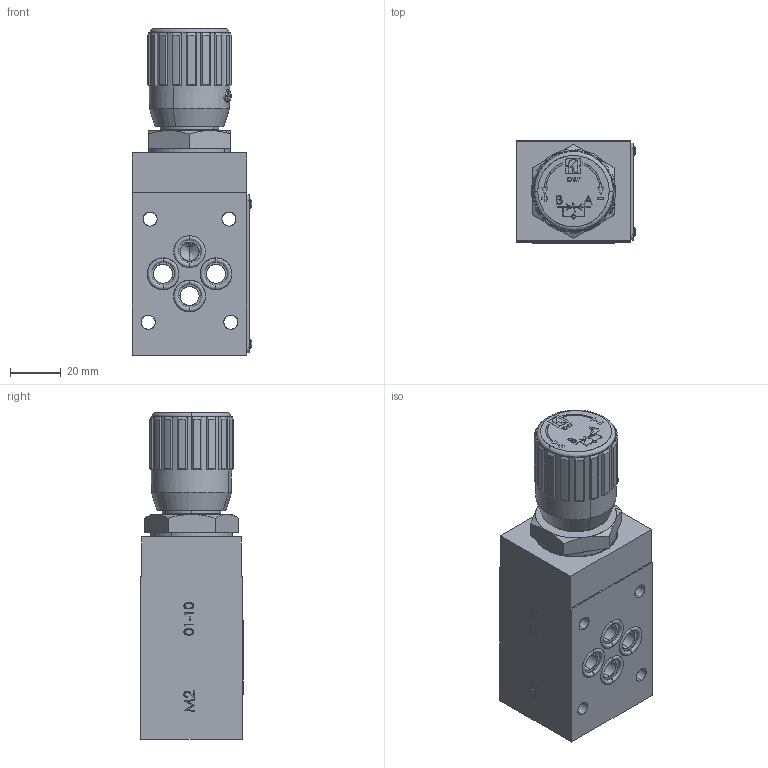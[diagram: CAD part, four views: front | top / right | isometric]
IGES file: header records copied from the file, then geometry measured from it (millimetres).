
Start section: SolidWorks IGES file using analytic representation for surfaces
Global section: file name: C:\Users\user\Desktop\FT357-5-A-03-H.IGS; native system: SolidWorks 2014; preprocessor: SolidWorks 2014; author: user; date: 140617.071123; units: millimetre
Bounding box: 46.96 x 40.38 x 128.3 mm (x, y, z)
Surface area: 60948.7 mm2 (no closed solid volume)
Topology: 0 solids, 0 shells, 2177 faces, 24193 edges, 24177 vertices
Faces by surface type: bspline 1673, revolution 504
